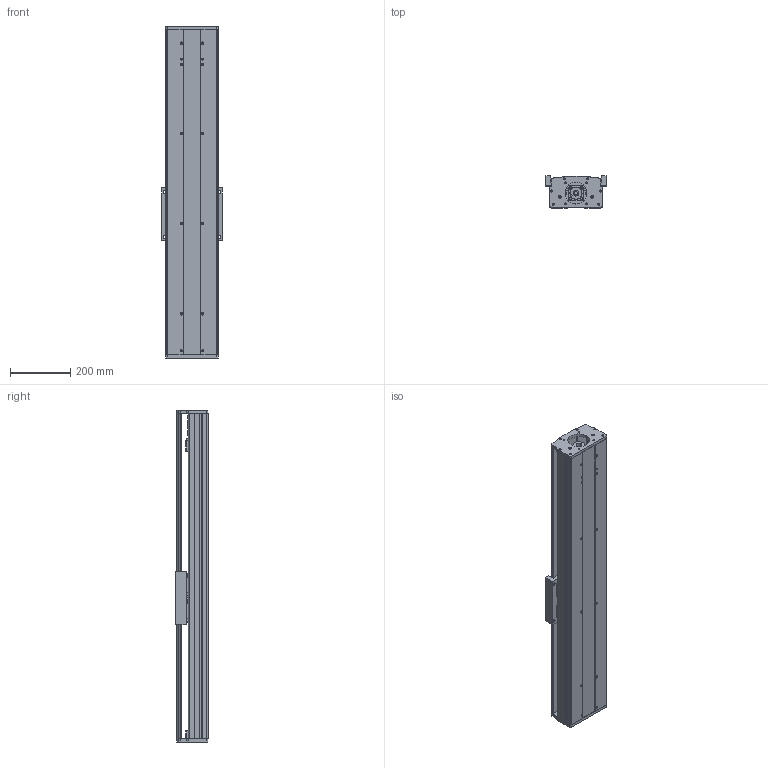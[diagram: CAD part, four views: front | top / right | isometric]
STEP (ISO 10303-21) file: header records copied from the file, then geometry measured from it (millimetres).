
FILE_DESCRIPTION (( 'STEP AP203' ), '1' );
FILE_NAME ('CF175-1-P750.STEP', '2016-02-23T06:48:28', ( 'Sky123.Org' ), ( 'Sky123.Org' ), 'SwSTEP 2.0', 'SolidWorks 2015', '' );
FILE_SCHEMA (( 'CONFIG_CONTROL_DESIGN' ));
Length unit declared in the file: millimetre
Products named in the file (23): CF175-1175裔啣; BK20蚾饜极1; CF175-1175臏倰第; BF; CF-HGH20CA賑輸; 1; deep groove ball bearings gb_Rolling bearings 6004 GB 276-94; 175賑雄啣; 蝶菜; BF20蚾饜极1; BK20; 40-66; cf175-SFS2525蹟譫釱; 綴杶; HGR20絳寢-1140; SFU2510-BK20+BF20; ヶ杶; SFU2510-4; 175-1-86祭輛萇儂釱; 粣創裔; CF175-1-P750; 175-1耜啣; angular contact ball bearings gb_Rolling bearings S7004 GB 292-94
Assembly tree (28 placements, depth 3):
  CF175-1-P750
    CF-HGH20CA賑輸  x4
    175賑雄啣
    BK20蚾饜极1
      BK20
      綴杶
      ヶ杶
      粣創裔
      angular contact ball bearings gb_Rolling bearings S7004 GB 292-94  x2
    BF20蚾饜极1
      BF
      deep groove ball bearings gb_Rolling bearings 6004 GB 276-94
    cf175-SFS2525蹟譫釱
    SFU2510-BK20+BF20
    175-1-86祭輛萇儂釱
    175-1耜啣
    CF175-1175裔啣
    CF175-1175臏倰第
    40-66
      1  x2
      蝶菜
    HGR20絳寢-1140  x2
    SFU2510-4
Bounding box: 200 x 107.5 x 1105 mm (x, y, z)
Volume: 8623907.4 mm3; surface area: 2302877.9 mm2
Topology: 29 solids, 29 shells, 1736 faces, 5328 edges, 3550 vertices
Faces by surface type: cylinder 754, plane 696, torus 168, sphere 96, cone 20, bspline 2
Entity records: 52760 total; most frequent: CARTESIAN_POINT 16484, ORIENTED_EDGE 7228, DIRECTION 6959, EDGE_CURVE 3614, AXIS2_PLACEMENT_3D 2697, VERTEX_POINT 2405, EDGE_LOOP 1567, VECTOR 1565
